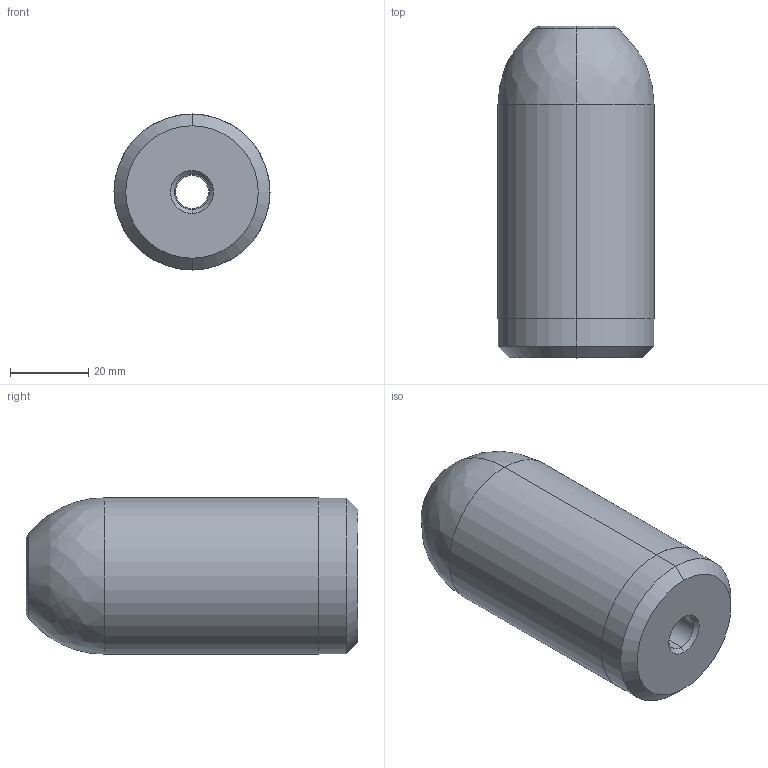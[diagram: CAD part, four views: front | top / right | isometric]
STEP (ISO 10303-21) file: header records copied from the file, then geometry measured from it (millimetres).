
FILE_DESCRIPTION(('CATIA V5 STEP Exchange'),'2;1');
FILE_NAME('C:\Users\Utente\Desktop\IO LAVORO\3D X SITO CF\X SITO\700\700-40-85.stp','2020-11-29T12:11:57+00:00',('none'),('none'),'CATIA Version 5 Release 20 GA (IN-10)','CATIA V5 STEP AP203','none');
FILE_SCHEMA(('CONFIG_CONTROL_DESIGN'));
Length unit declared in the file: millimetre
Products named in the file (1): 700-40-85
Bounding box: 40 x 85 x 40 mm (x, y, z)
Volume: 94453.4 mm3; surface area: 14142.1 mm2
Topology: 1 solids, 1 shells, 22 faces, 44 edges, 26 vertices
Faces by surface type: cylinder 8, cone 6, plane 4, torus 2, revolution 2
Entity records: 666 total; most frequent: CARTESIAN_POINT 169, ORIENTED_EDGE 88, DIRECTION 84, AXIS2_PLACEMENT_3D 49, EDGE_CURVE 44, CIRCLE 28, EDGE_LOOP 26, VERTEX_POINT 26
